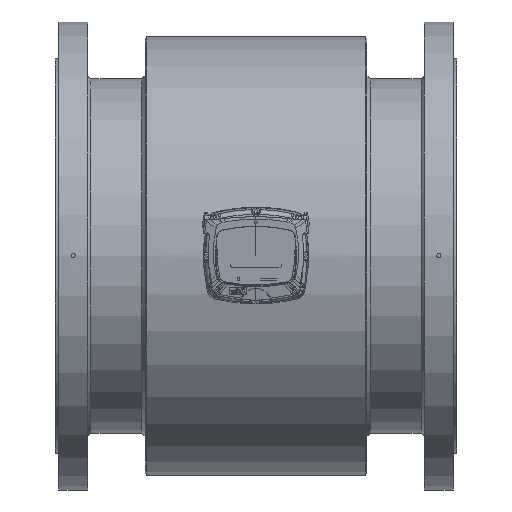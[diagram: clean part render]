
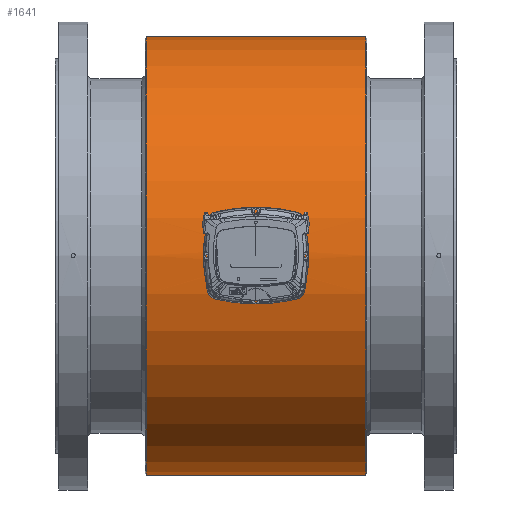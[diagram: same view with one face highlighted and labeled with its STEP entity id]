
A CAD part, top view. The second image highlights one B-rep face of the part: STEP entity #1641.
In plain terms, the highlighted cylindrical face has radius 328 mm (diameter 656 mm), a full revolution.
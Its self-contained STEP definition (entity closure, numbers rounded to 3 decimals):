
#1576=CARTESIAN_POINT('',(0.,-11.499,327.798));
#1577=VERTEX_POINT('',#1576);
#1587=CARTESIAN_POINT('',(0.,-11.5,327.798));
#1588=CARTESIAN_POINT('',(1.734,-11.5,327.798));
#1589=CARTESIAN_POINT('',(5.2,-10.714,327.827));
#1590=CARTESIAN_POINT('',(9.371,-7.416,327.925));
#1591=CARTESIAN_POINT('',(11.684,-2.647,328.003));
#1592=CARTESIAN_POINT('',(11.685,2.648,328.003));
#1593=CARTESIAN_POINT('',(9.369,7.413,327.925));
#1594=CARTESIAN_POINT('',(4.738,11.086,327.816));
#1595=CARTESIAN_POINT('',(-0.04,11.805,327.787));
#1596=CARTESIAN_POINT('',(-3.429,11.029,327.815));
#1597=CARTESIAN_POINT('',(-6.671,9.775,327.856));
#1598=CARTESIAN_POINT('',(-9.761,6.919,327.938));
#1599=CARTESIAN_POINT('',(-11.681,2.056,328.003));
#1600=CARTESIAN_POINT('',(-11.685,-2.645,328.003));
#1601=CARTESIAN_POINT('',(-9.37,-7.417,327.925));
#1602=CARTESIAN_POINT('',(-5.201,-10.714,327.827));
#1603=CARTESIAN_POINT('',(-1.733,-11.5,327.798));
#1604=CARTESIAN_POINT('',(0.,-11.5,327.798));
#1605=B_SPLINE_CURVE_WITH_KNOTS('',3,(#1587,#1588,#1589,#1590,#1591,#1592,#1593,#1594,#1595,#1596,#1597,#1598,#1599,#1600,#1601,#1602,#1603,#1604),.UNSPECIFIED.,.T.,.U.,(4,1,1,1,1,1,1,1,1,1,1,1,1,1,1,4),(-7.249,-6.731,-6.214,-5.696,-5.178,-4.66,-4.142,-3.452,-3.279,-3.107,-2.416,-2.071,-1.553,-1.036,-0.518,0.0),.UNSPECIFIED.);
#1606=EDGE_CURVE('',#1577,#1577,#1605,.T.);
#1611=CARTESIAN_POINT('',(82.,0.0,0.0));
#1612=DIRECTION('',(1.0,0.0,0.0));
#1613=DIRECTION('',(0.0,1.0,0.0));
#1614=AXIS2_PLACEMENT_3D('',#1611,#1612,#1613);
#1615=CYLINDRICAL_SURFACE('',#1614,328.0);
#1616=CARTESIAN_POINT('',(-164.,328.0,0.0));
#1617=VERTEX_POINT('',#1616);
#1618=CARTESIAN_POINT('',(-164.,0.0,0.0));
#1619=DIRECTION('',(1.0,0.0,0.0));
#1620=DIRECTION('',(0.0,1.0,0.0));
#1621=AXIS2_PLACEMENT_3D('',#1618,#1619,#1620);
#1622=CIRCLE('',#1621,328.0);
#1623=EDGE_CURVE('',#1617,#1617,#1622,.T.);
#1624=ORIENTED_EDGE('',*,*,#1623,.T.);
#1625=EDGE_LOOP('',(#1624));
#1626=FACE_OUTER_BOUND('',#1625,.T.);
#1627=CARTESIAN_POINT('',(164.,328.0,0.0));
#1628=VERTEX_POINT('',#1627);
#1629=CARTESIAN_POINT('',(164.,0.0,0.0));
#1630=DIRECTION('',(1.0,0.0,0.0));
#1631=DIRECTION('',(0.0,1.0,0.0));
#1632=AXIS2_PLACEMENT_3D('',#1629,#1630,#1631);
#1633=CIRCLE('',#1632,328.0);
#1634=EDGE_CURVE('',#1628,#1628,#1633,.T.);
#1635=ORIENTED_EDGE('',*,*,#1634,.F.);
#1636=EDGE_LOOP('',(#1635));
#1637=FACE_BOUND('',#1636,.T.);
#1638=ORIENTED_EDGE('',*,*,#1606,.F.);
#1639=EDGE_LOOP('',(#1638));
#1640=FACE_BOUND('',#1639,.T.);
#1641=ADVANCED_FACE('',(#1626,#1637,#1640),#1615,.T.);
